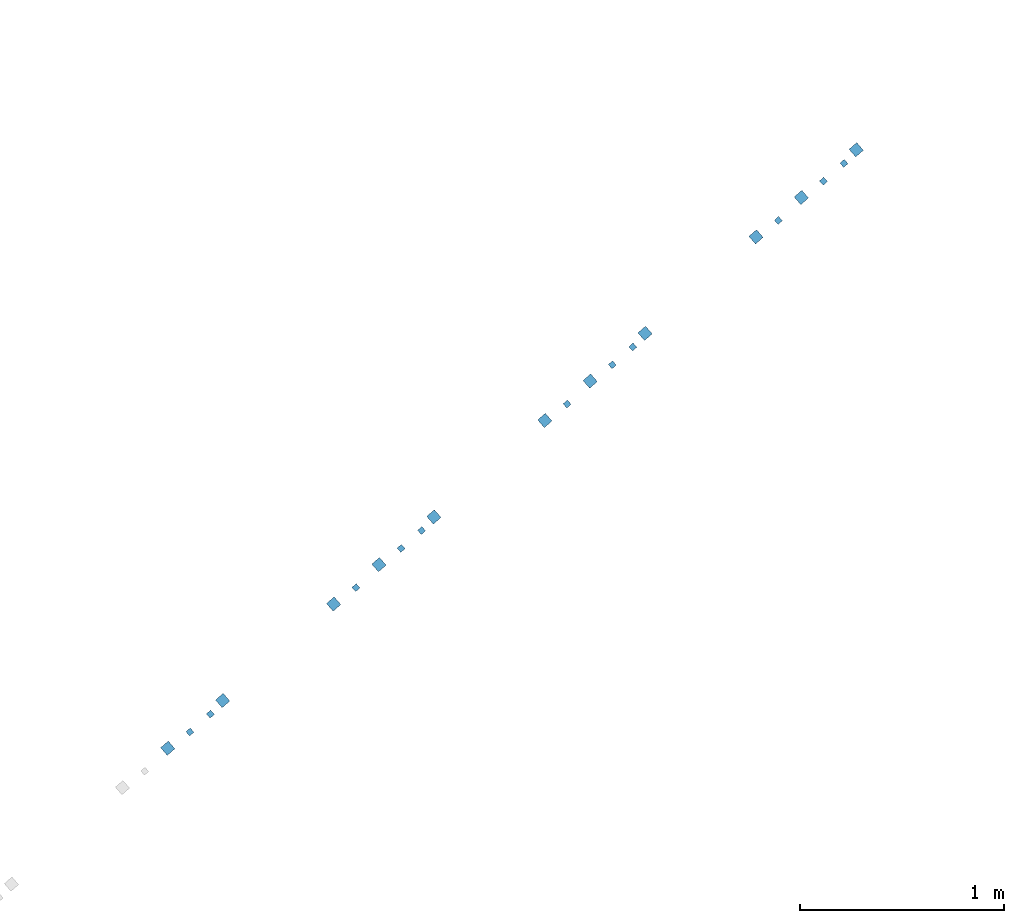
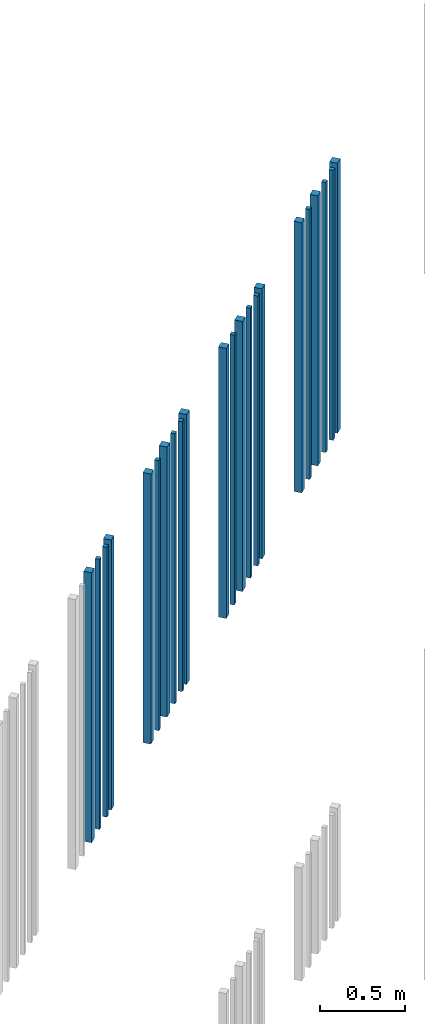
# One storey, part 40 of 124: 22 walls.
"""IFC2X3 building model written with IfcOpenShell, lengths in millimetres."""

from ifc_helpers import new_model, entity, si_unit, converted_unit, derived_unit, money_unit, direction, frame, origin_with_axes, place, context, subcontext, project, spatial, faceted_brep, material, type_object, element, save


model = new_model("IFC2X3")

# Units and contexts
model_context = context("Model", 3, precision=1e-05, world=origin_with_axes(), true_north=direction((0.0, 1.0)))
body_context = subcontext(model_context, "Body", "Model", "MODEL_VIEW")
ifc_project = project(units=[si_unit("LENGTHUNIT", "METRE", prefix="MILLI"), si_unit("AREAUNIT", "SQUARE_METRE"), si_unit("VOLUMEUNIT", "CUBIC_METRE"), converted_unit("PLANEANGLEUNIT", "DEGREE", entity("IfcPlaneAngleMeasure", 0.0174532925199), si_unit("PLANEANGLEUNIT", "RADIAN"), dimensions=[0, 0, 0, 0, 0, 0, 0]), si_unit("SOLIDANGLEUNIT", "STERADIAN"), money_unit("EUR"), converted_unit("TIMEUNIT", "Year", entity("IfcTimeMeasure", 31556926.0), si_unit("TIMEUNIT", "SECOND"), dimensions=[0, 0, 1, 0, 0, 0, 0]), si_unit("MASSUNIT", "GRAM", prefix="KILO"), si_unit("THERMODYNAMICTEMPERATUREUNIT", "DEGREE_CELSIUS"), si_unit("LUMINOUSINTENSITYUNIT", "LUMEN"), si_unit("ENERGYUNIT", "JOULE", prefix="MEGA"), derived_unit("THERMALCONDUCTANCEUNIT", [(si_unit("POWERUNIT", "WATT"), 1), (si_unit("LENGTHUNIT", "METRE"), -1), (si_unit("THERMODYNAMICTEMPERATUREUNIT", "KELVIN"), -1)]), derived_unit("SPECIFICHEATCAPACITYUNIT", [(si_unit("ENERGYUNIT", "JOULE"), 1), (si_unit("MASSUNIT", "GRAM", prefix="KILO"), -1), (si_unit("THERMODYNAMICTEMPERATUREUNIT", "KELVIN"), -1)]), derived_unit("MASSDENSITYUNIT", [(si_unit("MASSUNIT", "GRAM", prefix="KILO"), 1), (si_unit("VOLUMEUNIT", "CUBIC_METRE"), -1)])], contexts=[model_context])

# Site, building, storey
site_placement = place(None, origin_with_axes())
site = spatial("IfcSite", under=ifc_project, at=site_placement, Name="Site", CompositionType="ELEMENT")
building_placement = place(site_placement, origin_with_axes())
building = spatial("IfcBuilding", under=site, at=building_placement, Name="Building", CompositionType="ELEMENT")
storey_placement = place(building_placement, frame((0.0, 0.0, -1615.0), z_axis=(0.0, 0.0, 1.0), x_axis=(1.0, 0.0, 0.0)))
storey = spatial("IfcBuildingStorey", under=building, at=storey_placement, Name="0  korrus", CompositionType="ELEMENT", Elevation=-1615.0)

# Walls
ifc_material = material(Name="Site specified")
wall_type = type_object("IfcWallType", Name="Puitfassaadi ribistik", PredefinedType="NOTDEFINED")
for number, where, z_axis, x_axis, name in (
    (1, (133891.619919, 86426.6252859, 9530.0), (0.0, 0.0, 1.0), (0.754709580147, 0.656059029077, 0.0), "Site specified"),
    (2, (134160.300781, 86660.185996, 9530.0), (0.0, 0.0, 1.0), (0.754709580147, 0.656059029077, 0.0), "Site specified"),
    (3, (135737.639351, 88031.3454046, 9530.0), (0.0, 0.0, 1.0), (0.754709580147, 0.656059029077, 0.0), "Site specified"),
    (4, (136228.204828, 88457.7874678, 9530.0), (0.0, 0.0, 1.0), (0.754709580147, 0.656059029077, 0.0), "Site specified"),
):
    element("IfcWall", number, at=place(storey_placement, frame(where, z_axis=z_axis, x_axis=x_axis)), inside=storey, type_object=wall_type, material=ifc_material, Name=name, context=body_context, shape_type="Brep", body=[
        faceted_brep([(25.0, 25.0, 1950.0), (25.0, 25.0, 0.0), (-25.0, 25.0, 0.0), (-25.0, 25.0, 1950.0), (25.0, -25.0, 1950.0), (25.0, -25.0, 0.0), (-25.0, -25.0, 0.0), (-25.0, -25.0, 1950.0)], [[[0, 1, 2, 3]], [[4, 5, 1, 0]], [[2, 1, 5, 6]], [[3, 2, 6, 7]], [[4, 0, 3, 7]], [[7, 6, 5, 4]]]),
    ])
for number, where, z_axis, x_axis, name in (
    (5, (135846.743673, 88111.613202, 9530.0), (0.0, 0.0, 1.0), (0.754709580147, 0.656059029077, 0.0), "Site specified"),
    (6, (136168.249931, 88391.0943289, 9530.0), (0.0, 0.0, 1.0), (0.754709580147, 0.656059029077, 0.0), "Site specified"),
    (7, (136067.873558, 88303.8384786, 9530.0), (0.0, 0.0, 1.0), (0.754709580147, 0.656059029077, 0.0), "Site specified"),
):
    element("IfcWall", number, at=place(storey_placement, frame(where, z_axis=z_axis, x_axis=x_axis)), inside=storey, type_object=wall_type, material=ifc_material, Name=name, context=body_context, shape_type="Brep", body=[
        faceted_brep([(14.0, 14.0, 1950.0), (14.0, 14.0, 0.0), (-14.0, 14.0, 0.0), (-14.0, 14.0, 1950.0), (14.0, -14.0, 1950.0), (14.0, -14.0, 0.0), (-14.0, -14.0, 0.0), (-14.0, -14.0, 1950.0)], [[[0, 1, 2, 3]], [[4, 5, 1, 0]], [[2, 1, 5, 6]], [[3, 2, 6, 7]], [[4, 0, 3, 7]], [[7, 6, 5, 4]]]),
    ])
wall_1_placement = place(storey_placement, frame((135959.523965, 88224.2267577, 9530.0), z_axis=(0.0, 0.0, 1.0), x_axis=(0.754709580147, 0.656059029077, 0.0)))
element("IfcWall", 8, at=wall_1_placement, inside=storey, type_object=wall_type, material=ifc_material, Name="Site specified", context=body_context, shape_type="Brep", body=[
    faceted_brep([(25.0, 25.0, 1950.0), (25.0, 25.0, 0.0), (-25.0, 25.0, 0.0), (-25.0, 25.0, 1950.0), (25.0, -25.0, 1950.0), (25.0, -25.0, 0.0), (-25.0, -25.0, 0.0), (-25.0, -25.0, 1950.0)], [[[0, 1, 2, 3]], [[4, 5, 1, 0]], [[2, 1, 5, 6]], [[3, 2, 6, 7]], [[4, 0, 3, 7]], [[7, 6, 5, 4]]]),
])
for number, where, z_axis, x_axis, name in (
    (9, (132966.017386, 85607.4361369, 9530.0), (0.0, 0.0, 1.0), (0.754709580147, 0.656059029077, 0.0), "Site specified"),
    (10, (133999.969511, 86506.2370068, 9530.0), (0.0, 0.0, 1.0), (0.754709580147, 0.656059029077, 0.0), "Site specified"),
):
    element("IfcWall", number, at=place(storey_placement, frame(where, z_axis=z_axis, x_axis=x_axis)), inside=storey, type_object=wall_type, material=ifc_material, Name=name, context=body_context, shape_type="Brep", body=[
        faceted_brep([(14.0, 14.0, 1950.0), (14.0, 14.0, 0.0), (-14.0, 14.0, 0.0), (-14.0, 14.0, 1950.0), (14.0, -14.0, 1950.0), (14.0, -14.0, 0.0), (-14.0, -14.0, 0.0), (-14.0, -14.0, 1950.0)], [[[0, 1, 2, 3]], [[4, 5, 1, 0]], [[2, 1, 5, 6]], [[3, 2, 6, 7]], [[4, 0, 3, 7]], [[7, 6, 5, 4]]]),
    ])
wall_2_placement = place(storey_placement, frame((133669.735304, 86233.7439328, 9530.0), z_axis=(0.0, 0.0, 1.0), x_axis=(0.754709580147, 0.656059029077, 0.0)))
element("IfcWall", 11, at=wall_2_placement, inside=storey, type_object=wall_type, material=ifc_material, Name="Site specified", context=body_context, shape_type="Brep", body=[
    faceted_brep([(25.0, 25.0, 1950.0), (25.0, 25.0, 0.0), (-25.0, 25.0, 0.0), (-25.0, 25.0, 1950.0), (25.0, -25.0, 1950.0), (25.0, -25.0, 0.0), (-25.0, -25.0, 0.0), (-25.0, -25.0, 1950.0)], [[[0, 1, 2, 3]], [[4, 5, 1, 0]], [[2, 1, 5, 6]], [[3, 2, 6, 7]], [[4, 0, 3, 7]], [[7, 6, 5, 4]]]),
])
for number, where, z_axis, x_axis, name in (
    (12, (133778.839626, 86314.0117302, 9530.0), (0.0, 0.0, 1.0), (0.754709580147, 0.656059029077, 0.0), "Site specified"),
    (13, (134100.345885, 86593.4928571, 9530.0), (0.0, 0.0, 1.0), (0.754709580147, 0.656059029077, 0.0), "Site specified"),
):
    element("IfcWall", number, at=place(storey_placement, frame(where, z_axis=z_axis, x_axis=x_axis)), inside=storey, type_object=wall_type, material=ifc_material, Name=name, context=body_context, shape_type="Brep", body=[
        faceted_brep([(14.0, 14.0, 1950.0), (14.0, 14.0, 0.0), (-14.0, 14.0, 0.0), (-14.0, 14.0, 1950.0), (14.0, -14.0, 1950.0), (14.0, -14.0, 0.0), (-14.0, -14.0, 0.0), (-14.0, -14.0, 1950.0)], [[[0, 1, 2, 3]], [[4, 5, 1, 0]], [[2, 1, 5, 6]], [[3, 2, 6, 7]], [[4, 0, 3, 7]], [[7, 6, 5, 4]]]),
    ])
wall_3_placement = place(storey_placement, frame((134703.687429, 87132.5448026, 9530.0), z_axis=(0.0, 0.0, 1.0), x_axis=(0.754709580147, 0.656059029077, 0.0)))
element("IfcWall", 14, at=wall_3_placement, inside=storey, type_object=wall_type, material=ifc_material, Name="Site specified", context=body_context, shape_type="Brep", body=[
    faceted_brep([(25.0, 25.0, 1950.0), (25.0, 25.0, 0.0), (-25.0, 25.0, 0.0), (-25.0, 25.0, 1950.0), (25.0, -25.0, 1950.0), (25.0, -25.0, 0.0), (-25.0, -25.0, 0.0), (-25.0, -25.0, 1950.0)], [[[0, 1, 2, 3]], [[4, 5, 1, 0]], [[2, 1, 5, 6]], [[3, 2, 6, 7]], [[4, 0, 3, 7]], [[7, 6, 5, 4]]]),
])
for number, where, z_axis, x_axis, name in (
    (15, (134812.791751, 87212.8126, 9530.0), (0.0, 0.0, 1.0), (0.754709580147, 0.656059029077, 0.0), "Site specified"),
    (16, (135134.29801, 87492.2937269, 9530.0), (0.0, 0.0, 1.0), (0.754709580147, 0.656059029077, 0.0), "Site specified"),
    (17, (135033.921636, 87405.0378766, 9530.0), (0.0, 0.0, 1.0), (0.754709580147, 0.656059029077, 0.0), "Site specified"),
):
    element("IfcWall", number, at=place(storey_placement, frame(where, z_axis=z_axis, x_axis=x_axis)), inside=storey, type_object=wall_type, material=ifc_material, Name=name, context=body_context, shape_type="Brep", body=[
        faceted_brep([(14.0, 14.0, 1950.0), (14.0, 14.0, 0.0), (-14.0, 14.0, 0.0), (-14.0, 14.0, 1950.0), (14.0, -14.0, 1950.0), (14.0, -14.0, 0.0), (-14.0, -14.0, 0.0), (-14.0, -14.0, 1950.0)], [[[0, 1, 2, 3]], [[4, 5, 1, 0]], [[2, 1, 5, 6]], [[3, 2, 6, 7]], [[4, 0, 3, 7]], [[7, 6, 5, 4]]]),
    ])
for number, where, z_axis, x_axis, name in (
    (18, (134925.572043, 87325.4261557, 9530.0), (0.0, 0.0, 1.0), (0.754709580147, 0.656059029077, 0.0), "Site specified"),
    (19, (135194.252906, 87558.9868658, 9530.0), (0.0, 0.0, 1.0), (0.754709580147, 0.656059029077, 0.0), "Site specified"),
    (20, (132857.667794, 85527.8244161, 9530.0), (0.0, 0.0, 1.0), (0.754709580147, 0.656059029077, 0.0), "Site specified"),
    (21, (133126.348656, 85761.3851262, 9530.0), (0.0, 0.0, 1.0), (0.754709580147, 0.656059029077, 0.0), "Site specified"),
):
    element("IfcWall", number, at=place(storey_placement, frame(where, z_axis=z_axis, x_axis=x_axis)), inside=storey, type_object=wall_type, material=ifc_material, Name=name, context=body_context, shape_type="Brep", body=[
        faceted_brep([(25.0, 25.0, 1950.0), (25.0, 25.0, 0.0), (-25.0, 25.0, 0.0), (-25.0, 25.0, 1950.0), (25.0, -25.0, 1950.0), (25.0, -25.0, 0.0), (-25.0, -25.0, 0.0), (-25.0, -25.0, 1950.0)], [[[0, 1, 2, 3]], [[4, 5, 1, 0]], [[2, 1, 5, 6]], [[3, 2, 6, 7]], [[4, 0, 3, 7]], [[7, 6, 5, 4]]]),
    ])
wall_4_placement = place(storey_placement, frame((133066.39376, 85694.6919873, 9530.0), z_axis=(0.0, 0.0, 1.0), x_axis=(0.754709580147, 0.656059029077, 0.0)))
element("IfcWall", 22, at=wall_4_placement, inside=storey, type_object=wall_type, material=ifc_material, Name="Site specified", context=body_context, shape_type="Brep", body=[
    faceted_brep([(14.0, 14.0, 1950.0), (14.0, 14.0, 0.0), (-14.0, 14.0, 0.0), (-14.0, 14.0, 1950.0), (14.0, -14.0, 1950.0), (14.0, -14.0, 0.0), (-14.0, -14.0, 0.0), (-14.0, -14.0, 1950.0)], [[[0, 1, 2, 3]], [[4, 5, 1, 0]], [[2, 1, 5, 6]], [[3, 2, 6, 7]], [[4, 0, 3, 7]], [[7, 6, 5, 4]]]),
])

save(model, "model.ifc")
